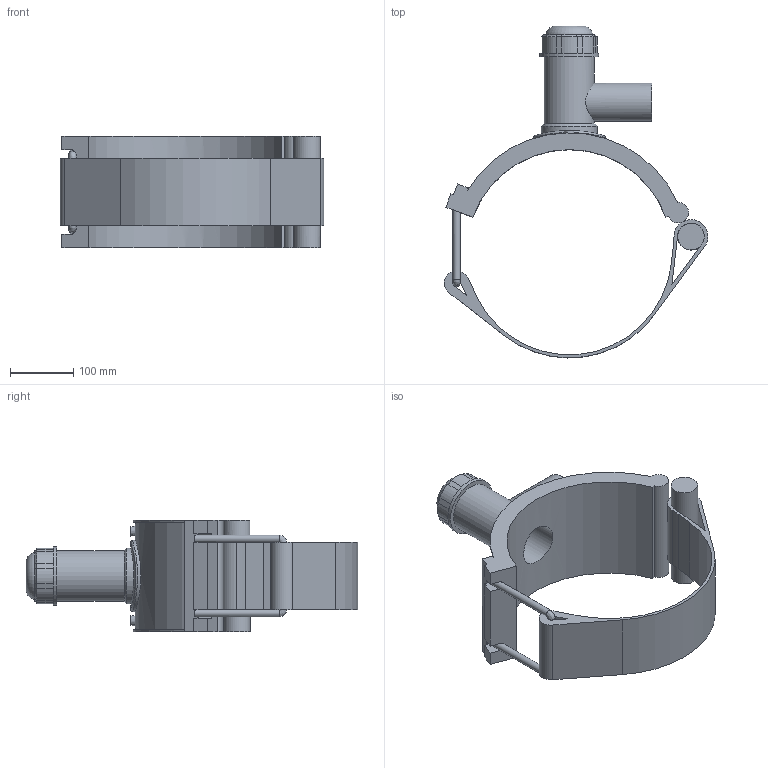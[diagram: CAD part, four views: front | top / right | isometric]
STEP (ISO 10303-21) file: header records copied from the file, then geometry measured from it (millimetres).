
FILE_DESCRIPTION(/* description */ ('PLASSON HIGH VOLUME TAPPING TEE 12''''IPS x 2''''IPS'),/* implementation_level */ '2;1');
FILE_NAME(/* name */ 'C:\Dropbox\KIMPROJECTS-Inventor 2019\99-16-3568-Processing Inch\ASTM ElectroFusion 2021\5913B\5913BB03120020.ipt.stp',/* time_stamp */ '2021-08-30T09:50:55+03:00',/* author */ ('KIM'),/* organization */ (''),/* preprocessor_version */ 'ST-DEVELOPER v17.2',/* originating_system */ 'Autodesk Inventor 2019',/* authorisation */ '');
FILE_SCHEMA (('AUTOMOTIVE_DESIGN { 1 0 10303 214 3 1 1 }'));
Length unit declared in the file: millimetre
Products named in the file (1): 5913BB03120020
Bounding box: 415.47 x 523.04 x 176.02 mm (x, y, z)
Volume: 3310769.6 mm3; surface area: 501907.8 mm2
Topology: 1 solids, 1 shells, 125 faces, 328 edges, 206 vertices
Faces by surface type: plane 69, cylinder 41, cone 11, bspline 3, torus 1
Full cylindrical faces by diameter (mm): 4 x2, 10 x2, 11.642 x2, 42.042 x1, 48.08 x1, 60.1 x1, 64.971 x1, 78.893 x1, 88.175 x1, 92.816 x1, 113.19 x1
Entity records: 4513 total; most frequent: CARTESIAN_POINT 1322, DIRECTION 667, ORIENTED_EDGE 654, EDGE_CURVE 327, AXIS2_PLACEMENT_3D 240, VERTEX_POINT 206, LINE 187, VECTOR 187
